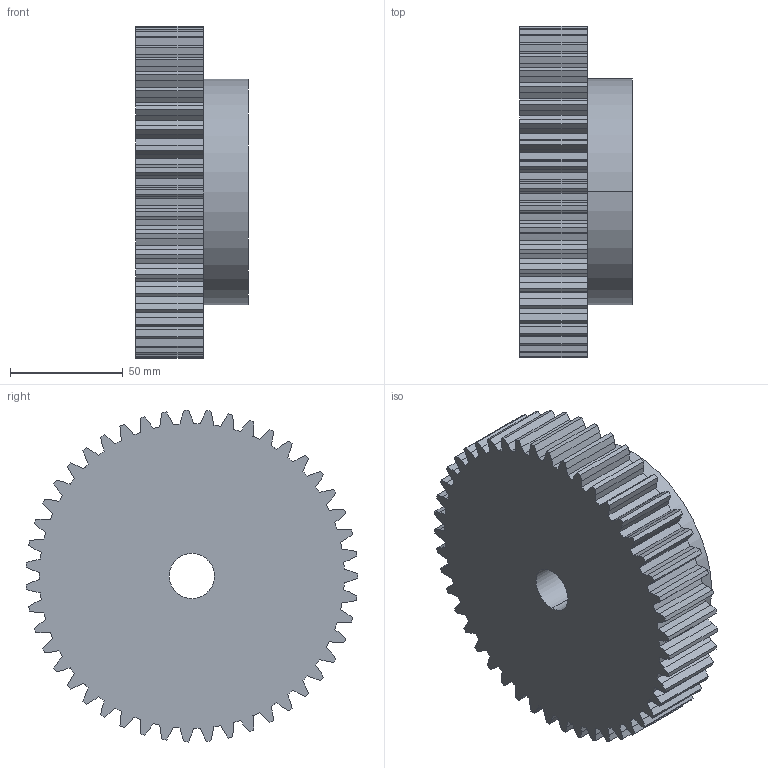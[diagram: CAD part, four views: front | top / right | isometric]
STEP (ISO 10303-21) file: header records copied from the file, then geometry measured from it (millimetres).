
FILE_DESCRIPTION (( 'STEP AP203' ), '1' );
FILE_NAME ('PM 30047.STEP', '2013-09-25T14:08:53', ( '' ), ( '' ), 'SwSTEP 2.0', 'SolidWorks 2010', '' );
FILE_SCHEMA (( 'CONFIG_CONTROL_DESIGN' ));
Length unit declared in the file: millimetre
Products named in the file (1): PM 30047
Bounding box: 50 x 146.9 x 146.97 mm (x, y, z)
Volume: 605729.1 mm3; surface area: 64829.8 mm2
Topology: 1 solids, 1 shells, 289 faces, 858 edges, 572 vertices
Faces by surface type: plane 191, cylinder 98
Entity records: 9937 total; most frequent: CARTESIAN_POINT 2536, ORIENTED_EDGE 1716, DIRECTION 1278, EDGE_CURVE 858, VERTEX_POINT 572, VECTOR 474, LINE 474, AXIS2_PLACEMENT_3D 402
